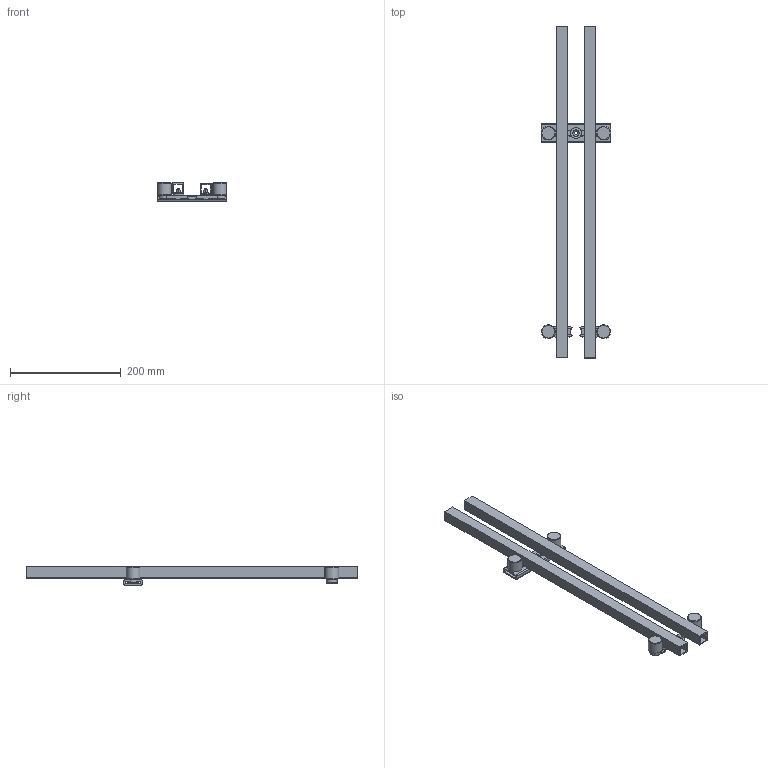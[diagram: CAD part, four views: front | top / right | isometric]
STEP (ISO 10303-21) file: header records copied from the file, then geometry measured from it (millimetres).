
FILE_DESCRIPTION(('STEP AP214'),'1');
FILE_NAME('Erweiterung-Ausleger.stp','2024-03-25T08:11:38',(' '),(' '),'Spatial InterOp 3D',' ',' ');
FILE_SCHEMA(('AUTOMOTIVE_DESIGN { 1 0 10303 214 1 1 1 1 }'));
Length unit declared in the file: metre
Products named in the file (19): Ausleger_links; Auslegerprofil; Nutenstein_ausleger; Nutenstein3; arretierung2; M4 SelbstsicherndeMutter; M4x25mm; M4x20mm; M4 Unterlegscheibe; Dämpfer; Kappe; M4 Stoppmutter; Ausleger-Gruppe; Ausleger_rechts; Airlineschiene-Ausleger-Auflager; Erweiterung-Ausleger
Assembly tree (46 placements, depth 5):
  Erweiterung-Ausleger
    Ausleger-Gruppe
      Ausleger_links
        Auslegerprofil
        Nutenstein_ausleger
          Nutenstein3
          arretierung2
          M4 SelbstsicherndeMutter
          M4x25mm
          M4x20mm
          M4 Unterlegscheibe
          Dämpfer
          Kappe
          M4 Stoppmutter
        Nutenstein_ausleger
          Nutenstein3
          arretierung2
          M4 SelbstsicherndeMutter
          M4x25mm
          M4x20mm
          M4 Unterlegscheibe
          Dämpfer
          Kappe
          M4 Stoppmutter
      Ausleger_rechts
        Auslegerprofil
        Nutenstein_ausleger
          Nutenstein3
          arretierung2
          M4 SelbstsicherndeMutter
          M4x25mm
          M4x20mm
          M4 Unterlegscheibe
          Dämpfer
          Kappe
          M4 Stoppmutter
        Nutenstein_ausleger
          Nutenstein3
          arretierung2
          M4 SelbstsicherndeMutter
          M4x25mm
          M4x20mm
          M4 Unterlegscheibe
          Dämpfer
          Kappe
          M4 Stoppmutter
      Airlineschiene-Ausleger-Auflager
Bounding box: 125 x 600 x 32.9 mm (x, y, z)
Volume: 256554.1 mm3; surface area: 232354.2 mm2
Topology: 39 solids, 39 shells, 464 faces, 1062 edges, 688 vertices
Faces by surface type: plane 298, cylinder 133, cone 17, extrusion 8, bspline 4, torus 4
Full cylindrical faces by diameter (mm): 3 x4, 4 x20, 4.3 x4, 4.5 x8, 5 x4, 6.4 x1, 7 x4, 9 x4, 20 x12, 25 x4
Entity records: 6471 total; most frequent: CARTESIAN_POINT 1204, DIRECTION 818, ORIENTED_EDGE 646, EDGE_CURVE 323, AXIS2_PLACEMENT_3D 296, VECTOR 226, VERTEX_POINT 224, LINE 224
